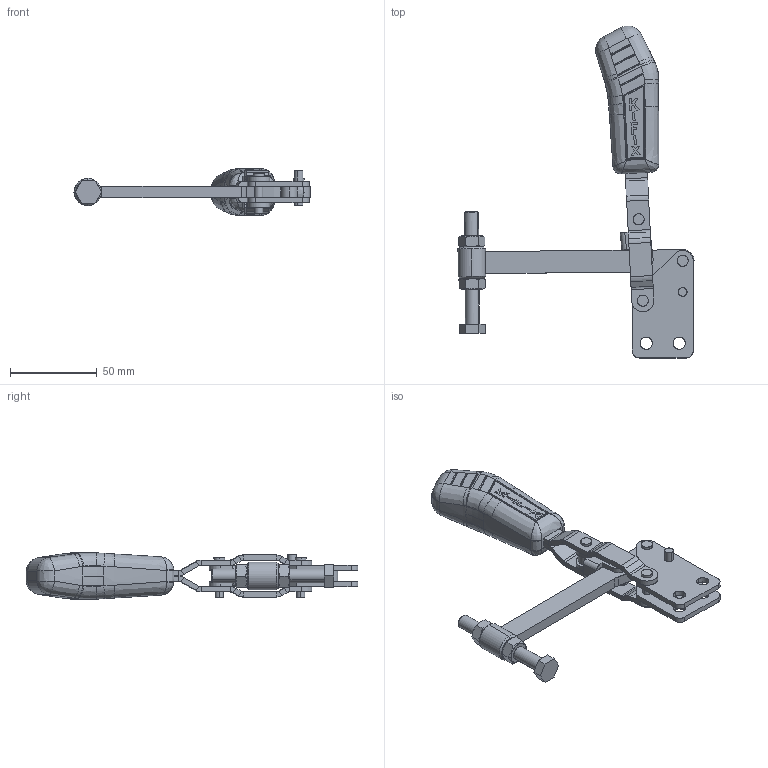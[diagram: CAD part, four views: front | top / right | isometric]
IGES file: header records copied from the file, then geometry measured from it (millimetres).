
Start section: SolidWorks IGES file using analytic representation for surfaces
Global section: file name: C:\Projetos\Grampos\KF-017\KF-017 RS\KF-017 RS.IGS; native system: SolidWorks 2013; preprocessor: SolidWorks 2013; author: Ricardo; date: 140728.151228; units: millimetre
Bounding box: 136.04 x 191.31 x 27.02 mm (x, y, z)
Surface area: 43653.7 mm2 (no closed solid volume)
Topology: 0 solids, 0 shells, 670 faces, 7281 edges, 7268 vertices
Faces by surface type: bspline 420, revolution 250
